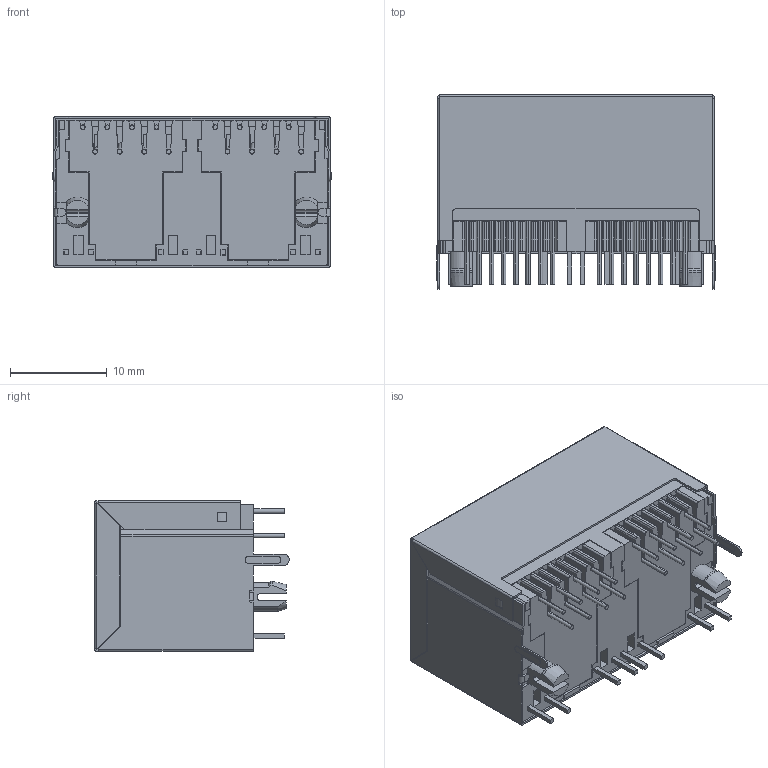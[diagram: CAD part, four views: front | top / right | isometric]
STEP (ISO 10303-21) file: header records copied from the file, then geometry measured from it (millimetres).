
FILE_DESCRIPTION((''),'2;1');
FILE_NAME('DGKYD52241288AC2A3DY1027','2023-09-08T17:07:20',('Administrator'),(''),'CREO PARAMETRIC BY PTC INC, 2019010','CREO PARAMETRIC BY PTC INC, 2019010','');
FILE_SCHEMA(('CONFIG_CONTROL_DESIGN'));
Products named in the file (1): DGKYD52241288AC2A3DY1027
Bounding box: 28.8 x 20.1 x 15.6 mm (x, y, z)
Volume: 3028.5 mm3; surface area: 10175.1 mm2
Topology: 9 solids, 10 shells, 1785 faces, 5069 edges, 3237 vertices
Faces by surface type: plane 1136, cylinder 406, torus 160, bspline 72, cone 6, sphere 5
Entity records: 61679 total; most frequent: CARTESIAN_POINT 15134, ORIENTED_EDGE 10120, DIRECTION 9365, EDGE_CURVE 5064, VECTOR 3537, LINE 3537, VERTEX_POINT 3237, AXIS2_PLACEMENT_3D 2914
